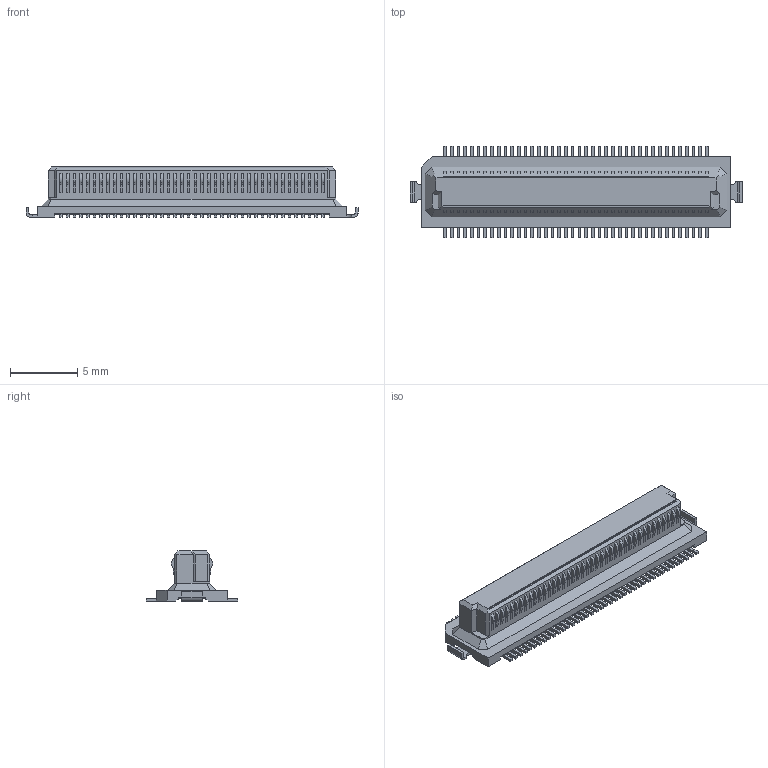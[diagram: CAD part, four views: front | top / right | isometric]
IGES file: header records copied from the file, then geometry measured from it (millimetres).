
Start section: Elysium IGES Interface
Global section: file name: 120HG:\その他\DY関連\CAD\依頼書（ウェブ）_HP用データ\60-36-0111_DY1X-S-1-H\P3E372_DY10-080S-1-T-H\P3E372_DY10-080S-1-T-H.igs; native system: Creo Elements/Direct Modeling 20.4A  18-Oct-2021; preprocessor: Creo Element/Direct IGES_3D V2.2; author: Unknown; organization: Unknown; date: 20220301.090608; units: millimetre
Bounding box: 24.7 x 6.8 x 3.73 mm (x, y, z)
Volume: 243.4 mm3; surface area: 528.3 mm2
Topology: 1 solids, 1 shells, 1244 faces, 3211 edges, 2130 vertices
Faces by surface type: bspline 1244
